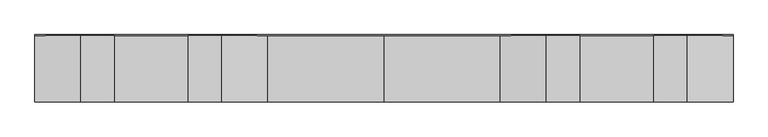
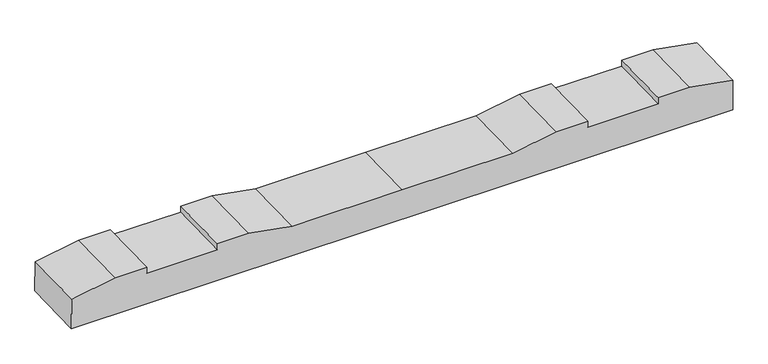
"""IFC4 building model written with IfcOpenShell, lengths in millimetres: proxy geometry, 轨枕-立面角度 : 轨枕-立面角度."""

import ifcopenshell
import ifcopenshell.guid

model = None  # the IFC model being written
_history = None  # IfcOwnerHistory: only IFC2X3 demands one
_inside = {}  # id of a spatial element -> (the spatial element, [elements in it])
_under = {}  # id of a project, library or spatial element -> (it, [spatial elements below it])
_declared = {}  # id of a project -> (the project, [libraries it declares])
_typed = {}  # id of a type object -> (the type object, [elements of that type])
_made_of = {}  # id of a material, layer set ... -> (it, [elements and type objects made of it])


def new_model(schema):
    """Start an empty IFC model of exactly this schema.

    Asked for "IFC4X3", IfcOpenShell would pick the latest addendum, in which some entities
    have other attributes; the version numbers below select the first issue.
    IFC2X3 requires an IfcOwnerHistory on every rooted entity: one is made here for all.
    """
    global model, _history
    if schema == "IFC4X3":
        model = ifcopenshell.file(schema_version=(4, 3, 0, 0))
    else:
        model = ifcopenshell.file(schema=schema)
    _inside.clear()
    _under.clear()
    _declared.clear()
    _typed.clear()
    _made_of.clear()
    _history = None
    if model.schema == "IFC2X3":
        org = make("IfcOrganization", Name="unknown")
        user = make(
            "IfcPersonAndOrganization",
            ThePerson=make("IfcPerson", FamilyName="unknown"),
            TheOrganization=org,
        )
        app = make(
            "IfcApplication",
            ApplicationDeveloper=org,
            Version="unknown",
            ApplicationFullName="unknown",
            ApplicationIdentifier="unknown",
        )
        _history = make(
            "IfcOwnerHistory",
            OwningUser=user,
            OwningApplication=app,
            ChangeAction="ADDED",
            CreationDate=0,
        )
    return model


def make(cls, **values):
    """One entity of the class cls with the attributes given. An attribute that is None is left unset."""
    return model.create_entity(
        cls, **{name: value for name, value in values.items() if value is not None}
    )


def rooted(cls, **values):
    """An entity with a GlobalId (a new one), such as an element, a storey or a relation."""
    return make(cls, GlobalId=ifcopenshell.guid.new(), OwnerHistory=_history, **values)


def si_unit(unit_type, name, prefix=None):
    """IfcSIUnit, for example si_unit("LENGTHUNIT", "METRE", prefix="MILLI")."""
    return make("IfcSIUnit", UnitType=unit_type, Prefix=prefix, Name=name)


def assignment(units):
    """IfcUnitAssignment: the units of a project."""
    return None if units is None else make("IfcUnitAssignment", Units=units)


def point(xyz):
    """IfcCartesianPoint."""
    return None if xyz is None else make("IfcCartesianPoint", Coordinates=xyz)


def direction(xyz):
    """IfcDirection."""
    return None if xyz is None else make("IfcDirection", DirectionRatios=xyz)


def frame(location, z_axis=None, x_axis=None):
    """IfcAxis2Placement3D, a coordinate frame: its origin and axes. An axis left out is left unset."""
    return make(
        "IfcAxis2Placement3D",
        Location=point(location),
        Axis=direction(z_axis),
        RefDirection=direction(x_axis),
    )


def origin():
    """The frame at (0, 0, 0) with its axes left unset."""
    return frame((0.0, 0.0, 0.0))


def place(relative_to, where):
    """IfcLocalPlacement: puts the frame where relative to a parent placement (None: the world)."""
    return make(
        "IfcLocalPlacement", PlacementRelTo=relative_to, RelativePlacement=where
    )


def context(
    kind, dimensions, precision=None, world=None, true_north=None, identifier=None
):
    """IfcGeometricRepresentationContext, for example the 3D "Model" context."""
    return make(
        "IfcGeometricRepresentationContext",
        ContextIdentifier=identifier,
        ContextType=kind,
        CoordinateSpaceDimension=dimensions,
        Precision=precision,
        WorldCoordinateSystem=world,
        TrueNorth=true_north,
    )


def project(units=None, contexts=None):
    """IfcProject with its units and contexts."""
    return rooted(
        "IfcProject",
        Name="project",
        RepresentationContexts=contexts,
        UnitsInContext=assignment(units),
    )


def spatial(cls, under=None, at=None, **own):
    """A site, building, storey or space (cls), placed at a placement, below another one or the project."""
    s = rooted(cls, ObjectPlacement=at, **own)
    if under is not None:
        _under.setdefault(under.id(), (under, []))[1].append(s)
    return s


def polyline(points):
    """IfcPolyline through the points."""
    return make("IfcPolyline", Points=[point(p) for p in points])


def outline(outer, holes=None, kind="AREA"):
    """IfcArbitraryClosedProfileDef: a profile drawn as a closed curve; with holes, ...WithVoids."""
    if holes is None:
        return make("IfcArbitraryClosedProfileDef", ProfileType=kind, OuterCurve=outer)
    return make(
        "IfcArbitraryProfileDefWithVoids",
        ProfileType=kind,
        OuterCurve=outer,
        InnerCurves=holes,
    )


def extrude(swept, where, along, depth):
    """IfcExtrudedAreaSolid: the profile swept, set in the frame where, extruded along a direction by depth."""
    return make(
        "IfcExtrudedAreaSolid",
        SweptArea=swept,
        Position=where,
        ExtrudedDirection=direction(along),
        Depth=depth,
    )


def shape(context_of_items, identifier, shape_type, items):
    """IfcShapeRepresentation: the items that make up one representation, for example the "Body"."""
    return make(
        "IfcShapeRepresentation",
        ContextOfItems=context_of_items,
        RepresentationIdentifier=identifier,
        RepresentationType=shape_type,
        Items=items,
    )


def source(mapping_origin, context_of_items, identifier, shape_type, items):
    """IfcRepresentationMap: a shape defined once, which mapped items show again and again."""
    return make(
        "IfcRepresentationMap",
        MappingOrigin=mapping_origin,
        MappedRepresentation=shape(context_of_items, identifier, shape_type, items),
    )


def transform(
    local_origin,
    x_axis=None,
    y_axis=None,
    z_axis=None,
    scale=None,
    scale2=None,
    scale3=None,
    uniform=True,
):
    """IfcCartesianTransformationOperator3D, or its non-uniform kind. x_axis, y_axis, z_axis: its Axis1, 2, 3."""
    if uniform:
        return make(
            "IfcCartesianTransformationOperator3D",
            Axis1=direction(x_axis),
            Axis2=direction(y_axis),
            LocalOrigin=point(local_origin),
            Scale=scale,
            Axis3=direction(z_axis),
        )
    return make(
        "IfcCartesianTransformationOperator3DnonUniform",
        Axis1=direction(x_axis),
        Axis2=direction(y_axis),
        LocalOrigin=point(local_origin),
        Scale=scale,
        Axis3=direction(z_axis),
        Scale2=scale2,
        Scale3=scale3,
    )


def mapped(mapping_source, mapping_target):
    """IfcMappedItem: shows the shape of a source again, moved by a transform."""
    return make(
        "IfcMappedItem", MappingSource=mapping_source, MappingTarget=mapping_target
    )


def made_of(thing, what):
    """Note that an element or type object is made of a material, layer set ...; save() writes the relation."""
    if what is not None:
        _made_of.setdefault(what.id(), (what, []))[1].append(thing)
    return thing


def element(
    cls,
    number,
    at=None,
    inside=None,
    cuts=None,
    type_object=None,
    material=None,
    context=None,
    identifier="Body",
    shape_type=None,
    held_by="IfcProductDefinitionShape",
    body=None,
    shapes=None,
    **own,
):
    """One element of the class cls, such as IfcWall. Its Tag is "e" and its number.

    at: its placement. inside: the storey or other place that contains it. cuts: it is an
    opening in that element (IfcRelVoidsElement). A single representation is given by context,
    identifier, shape_type and body (its items); several are given by shapes. held_by: the class
    of the entity that holds the representations. save() writes the other relations.
    """
    e = rooted(cls, Tag="e%d" % number, ObjectPlacement=at, **own)
    if body is not None:
        shapes = [shape(context, identifier, shape_type, body)]
    if shapes is not None:
        e.Representation = make(held_by, Representations=shapes)
    if inside is not None:
        _inside.setdefault(inside.id(), (inside, []))[1].append(e)
    if cuts is not None:
        rooted(
            "IfcRelVoidsElement", RelatingBuildingElement=cuts, RelatedOpeningElement=e
        )
    if type_object is not None:
        _typed.setdefault(type_object.id(), (type_object, []))[1].append(e)
    return made_of(e, material)


def aggregate(whole, parts):
    """IfcRelAggregates: a whole, such as a stair, and the parts it consists of."""
    return rooted("IfcRelAggregates", RelatingObject=whole, RelatedObjects=parts)


def save(model, path):
    """Write the relations noted so far, then the file.

    IfcRelAggregates (storeys below a building ...), IfcRelContainedInSpatialStructure (elements
    in a storey), IfcRelDefinesByType, IfcRelAssociatesMaterial and IfcRelDeclares: one each for
    every whole, place, type object, material and project.
    """
    for whole, parts in _under.values():
        aggregate(whole, parts)
    for where, things in _inside.values():
        rooted(
            "IfcRelContainedInSpatialStructure",
            RelatedElements=things,
            RelatingStructure=where,
        )
    for kind, things in _typed.values():
        rooted("IfcRelDefinesByType", RelatedObjects=things, RelatingType=kind)
    for what, things in _made_of.values():
        rooted("IfcRelAssociatesMaterial", RelatedObjects=things, RelatingMaterial=what)
    for by, libraries in _declared.values():
        rooted("IfcRelDeclares", RelatingContext=by, RelatedDefinitions=libraries)
    model.write(path)


def generic_models_ad6345b7(model_context):
    return source(origin(), model_context, "Body", "SweptSolid", [
        extrude(outline(polyline([(0.0, 0.0), (2099.7669328, 0.0), (2099.7669328, -100.020689), (1961.8834664, -124.5000001), (1861.8834664, -124.5000001), (1861.8834664, -104.5), (1637.8834664, -104.5), (1637.8834664, -124.5000001), (1537.8834664, -124.5000001), (1399.8834664, -100.0), (1049.8834664, -100.0), (699.8834664, -100.0), (561.8834664, -124.5000001), (461.8834664, -124.5000001), (461.8834664, -104.5), (237.8834664, -104.5), (237.8834664, -124.5000001), (137.8834664, -124.5000001), (0.0, -100.020689), (0.0, 0.0)])), frame((-1049.8834664, -97.4640154, -106.8691523), z_axis=(0.0, 0.9997121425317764, 0.02399233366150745), x_axis=(1.0, 0.0, 0.0)), (0.0, 0.0, 1.0), 200.0),
    ])


if __name__ == "__main__":
    model = new_model("IFC4")
    model_context = context("Model", 3, world=origin())
    ifc_project = project(units=[si_unit("LENGTHUNIT", "METRE", prefix="MILLI")], contexts=[model_context])
    site = spatial("IfcSite", under=ifc_project)
    building = spatial("IfcBuilding", under=site)
    placement = place(None, origin())
    generic_models_shape = generic_models_ad6345b7(model_context)
    element("IfcBuildingElementProxy", 1, Name="轨枕-立面角度 : 轨枕-立面角度", ObjectType="轨枕-立面角度 : 轨枕-立面角度", at=placement, inside=building, context=model_context, shape_type="MappedRepresentation", body=[
        mapped(generic_models_shape, transform((0.0, 0.0, 0.0), x_axis=(1.0, 0.0, 0.0), y_axis=(0.0, 1.0, 0.0), z_axis=(0.0, 0.0, 1.0))),
    ])
    save(model, "model.ifc")
